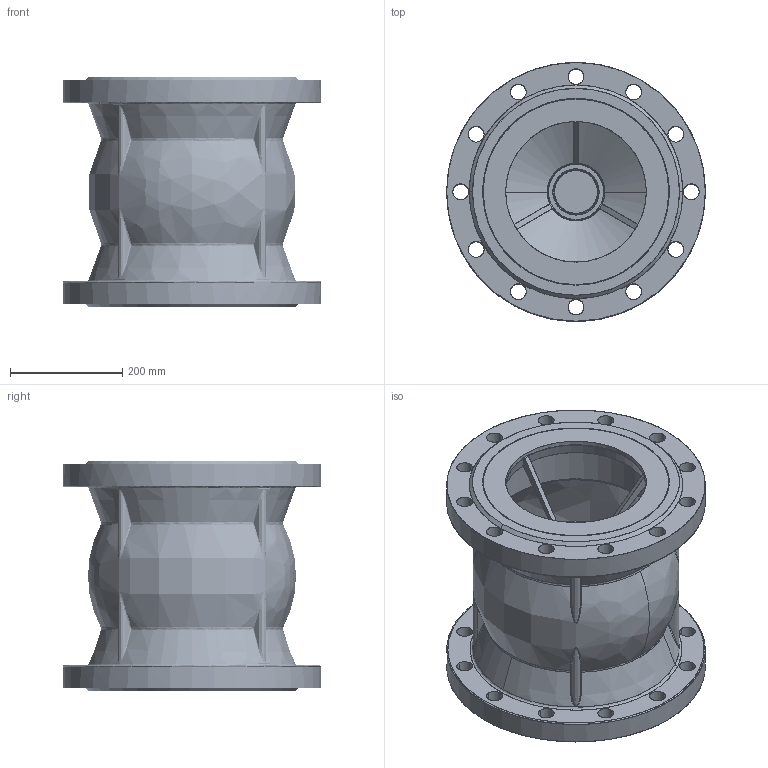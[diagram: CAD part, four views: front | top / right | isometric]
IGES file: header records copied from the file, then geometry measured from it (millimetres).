
Start section: SolidWorks IGES file using analytic representation for surfaces
Global section: file name: C:\Users\Administrator\Desktop\temp\0.IGS; native system: SolidWorks 2015; preprocessor: SolidWorks 2015; author: Administrator; date: 170405.214130; units: millimetre
Bounding box: 460 x 460 x 410 mm (x, y, z)
Surface area: 2023126.4 mm2 (no closed solid volume)
Topology: 0 solids, 0 shells, 643 faces, 9163 edges, 9141 vertices
Faces by surface type: bspline 452, revolution 191
